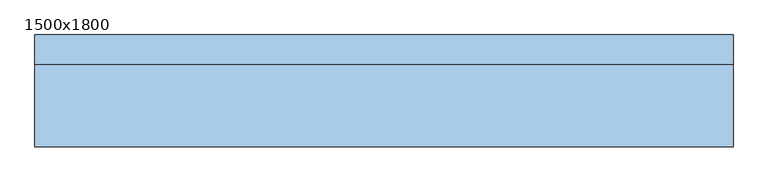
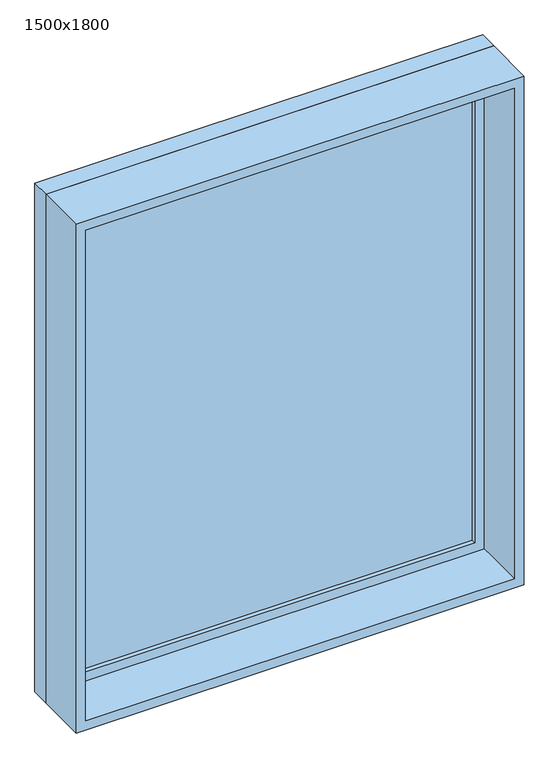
"""IFC4 building model written with IfcOpenShell, lengths in millimetres: window geometry, 固定窗 : 1500x1800."""

from ifc_helpers import new_model, si_unit, frame, origin, place, context, project, spatial, polyline, outline, extrude, source, transform, mapped, element, save


def window_1500x1800_15bb4d9f(model_context):
    return source(origin(), model_context, "Body", "SweptSolid", [
        extrude(outline(polyline([(648.4, 71.425), (-724.6, 71.425), (-724.6, 84.125), (648.4, 84.125), (648.4, 71.425)])), frame((0.0, 0.0, 363.5), z_axis=(0.0, 0.0, 1.0), x_axis=(1.0, 0.0, 0.0)), (0.0, 0.0, 1.0), 1673.0),
        extrude(outline(polyline([(2080.95, -769.05), (319.05, -769.05), (319.05, 692.85), (2080.95, 692.85), (2080.95, -769.05)]), holes=[polyline([(2036.5, -724.6), (2036.5, 648.4), (363.5, 648.4), (363.5, -724.6), (2036.5, -724.6)])]), frame((0.0, 55.55, 0.0), z_axis=(0.0, 1.0, 0.0), x_axis=(0.0, 0.0, 1.0)), (0.0, 0.0, 1.0), 44.45),
        extrude(outline(polyline([(2100.0, -788.1), (300.0, -788.1), (300.0, 711.9), (2100.0, 711.9), (2100.0, -788.1)]), holes=[polyline([(2068.25, -756.35), (2068.25, 680.15), (331.75, 680.15), (331.75, -756.35), (2068.25, -756.35)])]), frame((0.0, -120.0, 0.0), z_axis=(0.0, 1.0, 0.0), x_axis=(0.0, 0.0, 1.0)), (0.0, 0.0, 1.0), 175.55),
        extrude(outline(polyline([(2100.0, 711.9), (2100.0, -788.1), (300.0, -788.1), (300.0, 711.9), (2100.0, 711.9)]), holes=[polyline([(2080.95, 692.85), (319.05, 692.85), (319.05, -769.05), (2080.95, -769.05), (2080.95, 692.85)])]), frame((0.0, 55.55, 0.0), z_axis=(0.0, 1.0, 0.0), x_axis=(0.0, 0.0, 1.0)), (0.0, 0.0, 1.0), 64.45),
    ])


if __name__ == "__main__":
    model = new_model("IFC4")
    model_context = context("Model", 3, world=origin())
    ifc_project = project(units=[si_unit("LENGTHUNIT", "METRE", prefix="MILLI")], contexts=[model_context])
    site = spatial("IfcSite", under=ifc_project)
    building = spatial("IfcBuilding", under=site)
    placement = place(None, origin())
    window_1500x1800_shape = window_1500x1800_15bb4d9f(model_context)
    element("IfcWindow", 1, ObjectType="固定窗 : 1500x1800", at=placement, inside=building, context=model_context, shape_type="MappedRepresentation", body=[
        mapped(window_1500x1800_shape, transform((0.0, 0.0, 0.0), x_axis=(1.0, 0.0, 0.0), y_axis=(0.0, 1.0, 0.0), z_axis=(0.0, 0.0, 1.0))),
    ])
    save(model, "model.ifc")
